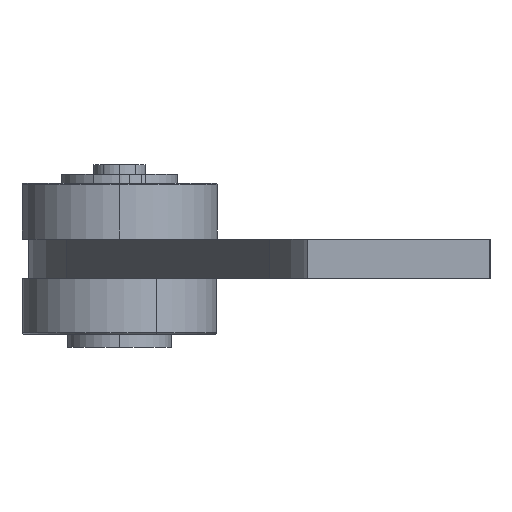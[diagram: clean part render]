
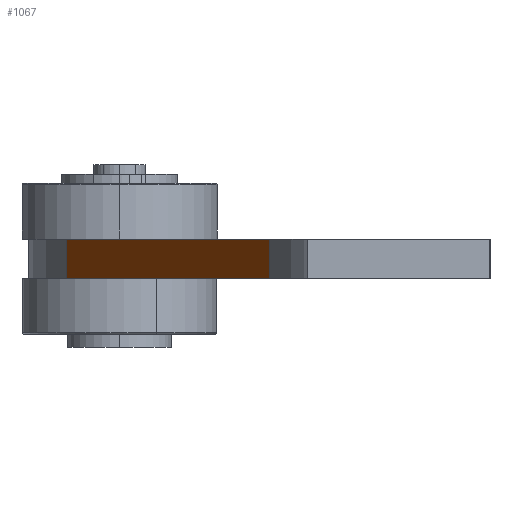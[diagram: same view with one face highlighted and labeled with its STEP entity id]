
A CAD part, left-side view. The second image highlights one B-rep face of the part: STEP entity #1067.
In plain terms, the highlighted planar face has unit normal (-0.431, 0.902, 0).
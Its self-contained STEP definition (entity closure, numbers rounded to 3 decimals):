
#47 = ORIENTED_EDGE ( 'NONE', *, *, #416, .F. ) ;
#128 = DIRECTION ( 'NONE',  ( -0.902, -0.431, 0. ) ) ;
#132 = VERTEX_POINT ( 'NONE', #353 ) ;
#174 = ORIENTED_EDGE ( 'NONE', *, *, #1220, .T. ) ;
#223 = ORIENTED_EDGE ( 'NONE', *, *, #1444, .T. ) ;
#231 = FACE_OUTER_BOUND ( 'NONE', #402, .T. ) ;
#271 = ORIENTED_EDGE ( 'NONE', *, *, #1112, .F. ) ;
#353 = CARTESIAN_POINT ( 'NONE',  ( -68.866, -11.569, 0. ) ) ;
#389 = VECTOR ( 'NONE', #1249, 1000. ) ;
#402 = EDGE_LOOP ( 'NONE', ( #47, #271, #223, #174 ) ) ;
#416 = EDGE_CURVE ( 'NONE', #522, #132, #713, .T. ) ;
#522 = VERTEX_POINT ( 'NONE', #585 ) ;
#542 = VERTEX_POINT ( 'NONE', #1339 ) ;
#549 = LINE ( 'NONE', #1358, #389 ) ;
#585 = CARTESIAN_POINT ( 'NONE',  ( -36.134, 4.069, 0. ) ) ;
#593 = LINE ( 'NONE', #672, #1276 ) ;
#671 = VECTOR ( 'NONE', #1089, 1000. ) ;
#672 = CARTESIAN_POINT ( 'NONE',  ( -68.866, -11.569, -3. ) ) ;
#684 = DIRECTION ( 'NONE',  ( 0., 0., 1. ) ) ;
#713 = LINE ( 'NONE', #950, #671 ) ;
#760 = VERTEX_POINT ( 'NONE', #1019 ) ;
#797 = AXIS2_PLACEMENT_3D ( 'NONE', #1363, #993, #1122 ) ;
#876 = VECTOR ( 'NONE', #128, 1000. ) ;
#950 = CARTESIAN_POINT ( 'NONE',  ( -36.134, 4.069, 0. ) ) ;
#993 = DIRECTION ( 'NONE',  ( -0.431, 0.902, 0. ) ) ;
#1004 = PLANE ( 'NONE',  #797 ) ;
#1019 = CARTESIAN_POINT ( 'NONE',  ( -36.134, 4.069, -3. ) ) ;
#1067 = ADVANCED_FACE ( 'NONE', ( #231 ), #1004, .T. ) ;
#1089 = DIRECTION ( 'NONE',  ( -0.902, -0.431, 0. ) ) ;
#1112 = EDGE_CURVE ( 'NONE', #760, #522, #549, .T. ) ;
#1122 = DIRECTION ( 'NONE',  ( -0.902, -0.431, 0. ) ) ;
#1172 = LINE ( 'NONE', #1549, #876 ) ;
#1220 = EDGE_CURVE ( 'NONE', #542, #132, #593, .T. ) ;
#1249 = DIRECTION ( 'NONE',  ( 0., 0., 1. ) ) ;
#1276 = VECTOR ( 'NONE', #684, 1000. ) ;
#1339 = CARTESIAN_POINT ( 'NONE',  ( -68.866, -11.569, -3. ) ) ;
#1358 = CARTESIAN_POINT ( 'NONE',  ( -36.134, 4.069, -3. ) ) ;
#1363 = CARTESIAN_POINT ( 'NONE',  ( -36.134, 4.069, -3. ) ) ;
#1444 = EDGE_CURVE ( 'NONE', #760, #542, #1172, .T. ) ;
#1549 = CARTESIAN_POINT ( 'NONE',  ( -36.134, 4.069, -3. ) ) ;
